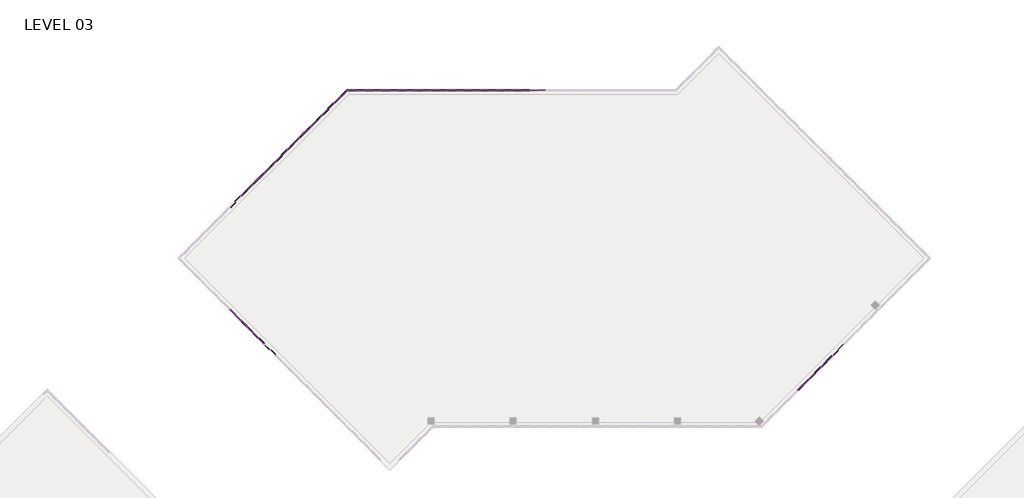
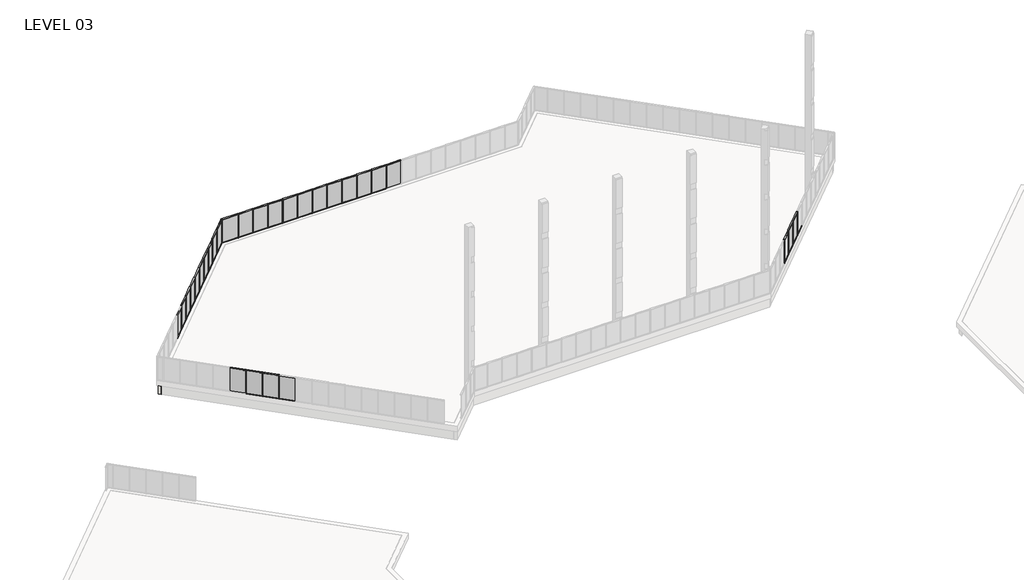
# One storey, part 14 of 18: 84 members, 28 plates, 2 walls.
"""IFC4 building model written with IfcOpenShell, lengths in millimetres."""

from ifc_helpers import new_model, si_unit, origin, place, context, project, spatial, faceted_brep, transform, mapped, element, save
from components import member_5247f267, member_e44af9ab, member_800970d4, member_1bd862b2, member_7ca0f77f, plate_67294edd, plate_bbcbcabf, plate_3fb62afd, plate_e0fd5134

model = new_model("IFC4")

# Units and contexts
model_context = context("Model", 3, world=origin())
ifc_project = project(units=[si_unit("LENGTHUNIT", "METRE", prefix="MILLI")], contexts=[model_context])

# Site, building, storey
site = spatial("IfcSite", under=ifc_project)
building = spatial("IfcBuilding", under=site)
storey = spatial("IfcBuildingStorey", under=building, Name="LEVEL 03", Elevation=8280.4)

# Members
placement = place(None, origin())
member_shape = member_5247f267(model_context)
element("IfcMember", 1, ObjectType="Rectangular Mullion : 2\" x 4.5\" rectangular", at=placement, inside=storey, context=model_context, shape_type="MappedRepresentation", body=[
    mapped(member_shape, transform((52409.397447, 92323.5436163, 8280.4), x_axis=(0.0, 0.0, -1.0), y_axis=(0.7071067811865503, -0.7071067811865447, 0.0), z_axis=(-0.7071067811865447, -0.7071067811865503, 0.0))),
])
element("IfcMember", 2, ObjectType="Rectangular Mullion : 2\" x 4.5\" rectangular", at=placement, inside=storey, context=model_context, shape_type="MappedRepresentation", body=[
    mapped(member_shape, transform((53487.0281815, 93401.1743508, 8280.4), x_axis=(0.0, 0.0, -1.0), y_axis=(0.7071067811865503, -0.7071067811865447, 0.0), z_axis=(-0.7071067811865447, -0.7071067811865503, 0.0))),
])
element("IfcMember", 3, ObjectType="Rectangular Mullion : 2\" x 4.5\" rectangular", at=placement, inside=storey, context=model_context, shape_type="MappedRepresentation", body=[
    mapped(member_shape, transform((55642.2748488, 95556.4210181, 8280.4), x_axis=(0.0, 0.0, -1.0), y_axis=(0.7071067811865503, -0.7071067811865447, 0.0), z_axis=(-0.7071067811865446, -0.7071067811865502, 0.0))),
])
element("IfcMember", 4, ObjectType="Rectangular Mullion : 2\" x 4.5\" rectangular", at=placement, inside=storey, context=model_context, shape_type="MappedRepresentation", body=[
    mapped(member_shape, transform((27514.55, 120127.9523049, 8280.4), x_axis=(0.0, 0.0, -1.0), y_axis=(0.0, 1.0, 0.0), z_axis=(1.0, 0.0, 0.0))),
])
element("IfcMember", 5, ObjectType="Rectangular Mullion : 2\" x 4.5\" rectangular", at=placement, inside=storey, context=model_context, shape_type="MappedRepresentation", body=[
    mapped(member_shape, transform((24466.55, 120127.9523049, 8280.4), x_axis=(0.0, 0.0, -1.0), y_axis=(0.0, 1.0, 0.0), z_axis=(1.0, 0.0, 0.0))),
])
element("IfcMember", 6, ObjectType="Rectangular Mullion : 2\" x 4.5\" rectangular", at=placement, inside=storey, context=model_context, shape_type="MappedRepresentation", body=[
    mapped(member_shape, transform((22942.55, 120127.9523049, 8280.4), x_axis=(0.0, 0.0, -1.0), y_axis=(0.0, 1.0, 0.0), z_axis=(1.0, 0.0, 0.0))),
])
element("IfcMember", 7, ObjectType="Rectangular Mullion : 2\" x 4.5\" rectangular", at=placement, inside=storey, context=model_context, shape_type="MappedRepresentation", body=[
    mapped(member_shape, transform((19894.55, 120127.9523049, 8280.4), x_axis=(0.0, 0.0, -1.0), y_axis=(0.0, 1.0, 0.0), z_axis=(1.0, 0.0, 0.0))),
])
element("IfcMember", 8, ObjectType="Rectangular Mullion : 2\" x 4.5\" rectangular", at=placement, inside=storey, context=model_context, shape_type="MappedRepresentation", body=[
    mapped(member_shape, transform((15322.55, 120127.9523049, 8280.4), x_axis=(0.0, 0.0, -1.0), y_axis=(0.0, 1.0, 0.0), z_axis=(1.0, 0.0, 0.0))),
])
element("IfcMember", 9, ObjectType="Rectangular Mullion : 2\" x 4.5\" rectangular", at=placement, inside=storey, context=model_context, shape_type="MappedRepresentation", body=[
    mapped(member_shape, transform((13798.55, 120127.9523049, 8280.4), x_axis=(0.0, 0.0, -1.0), y_axis=(0.0, 1.0, 0.0), z_axis=(1.0, 0.0, 0.0))),
])
element("IfcMember", 10, ObjectType="Rectangular Mullion : 2\" x 4.5\" rectangular", at=placement, inside=storey, context=model_context, shape_type="MappedRepresentation", body=[
    mapped(member_shape, transform((9397.6593581, 118915.3677986, 8280.4), x_axis=(0.0, 0.0, -1.0), y_axis=(-0.7071067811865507, 0.7071067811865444, 0.0), z_axis=(0.7071067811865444, 0.7071067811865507, 0.0))),
])
element("IfcMember", 11, ObjectType="Rectangular Mullion : 2\" x 4.5\" rectangular", at=placement, inside=storey, context=model_context, shape_type="MappedRepresentation", body=[
    mapped(member_shape, transform((8320.0286235, 117837.7370641, 8280.4), x_axis=(0.0, 0.0, -1.0), y_axis=(-0.7071067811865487, 0.7071067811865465, 0.0), z_axis=(0.7071067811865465, 0.7071067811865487, 0.0))),
])
element("IfcMember", 12, ObjectType="Rectangular Mullion : 2\" x 4.5\" rectangular", at=placement, inside=storey, context=model_context, shape_type="MappedRepresentation", body=[
    mapped(member_shape, transform((7242.397889, 116760.1063296, 8280.4), x_axis=(0.0, 0.0, -1.0), y_axis=(-0.7071067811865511, 0.707106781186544, 0.0), z_axis=(0.707106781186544, 0.7071067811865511, 0.0))),
])
element("IfcMember", 13, ObjectType="Rectangular Mullion : 2\" x 4.5\" rectangular", at=placement, inside=storey, context=model_context, shape_type="MappedRepresentation", body=[
    mapped(member_shape, transform((6164.7671545, 115682.475595, 8280.4), x_axis=(0.0, 0.0, -1.0), y_axis=(-0.7071067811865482, 0.7071067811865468, 0.0), z_axis=(0.7071067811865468, 0.7071067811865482, 0.0))),
])
element("IfcMember", 14, ObjectType="Rectangular Mullion : 2\" x 4.5\" rectangular", at=placement, inside=storey, context=model_context, shape_type="MappedRepresentation", body=[
    mapped(member_shape, transform((4009.5056854, 113527.214126, 8280.4), x_axis=(0.0, 0.0, -1.0), y_axis=(-0.7071067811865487, 0.7071067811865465, 0.0), z_axis=(0.7071067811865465, 0.7071067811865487, 0.0))),
])
element("IfcMember", 15, ObjectType="Rectangular Mullion : 2\" x 4.5\" rectangular", at=placement, inside=storey, context=model_context, shape_type="MappedRepresentation", body=[
    mapped(member_shape, transform((2931.8749509, 112449.5833914, 8280.4), x_axis=(0.0, 0.0, -1.0), y_axis=(-0.7071067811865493, 0.7071067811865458, 0.0), z_axis=(0.7071067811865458, 0.7071067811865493, 0.0))),
])
element("IfcMember", 16, ObjectType="Rectangular Mullion : 2\" x 4.5\" rectangular", at=placement, inside=storey, context=model_context, shape_type="MappedRepresentation", body=[
    mapped(member_shape, transform((1854.2442164, 111371.9526569, 8280.4), x_axis=(0.0, 0.0, -1.0), y_axis=(-0.7071067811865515, 0.7071067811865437, 0.0), z_axis=(0.7071067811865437, 0.7071067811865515, 0.0))),
])
element("IfcMember", 17, ObjectType="Rectangular Mullion : 2\" x 4.5\" rectangular", at=placement, inside=storey, context=model_context, shape_type="MappedRepresentation", body=[
    mapped(member_shape, transform((812.713179, 98753.3329903, 8280.4), x_axis=(0.0, 0.0, -1.0), y_axis=(-0.7071067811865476, -0.7071067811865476, 0.0), z_axis=(-0.7071067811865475, 0.7071067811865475, 0.0))),
])
element("IfcMember", 18, ObjectType="Rectangular Mullion : 2\" x 4.5\" rectangular", at=placement, inside=storey, context=model_context, shape_type="MappedRepresentation", body=[
    mapped(member_shape, transform((1890.3439135, 97675.7022558, 8280.4), x_axis=(0.0, 0.0, -1.0), y_axis=(-0.7071067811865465, -0.7071067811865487, 0.0), z_axis=(-0.7071067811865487, 0.7071067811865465, 0.0))),
])
element("IfcMember", 19, ObjectType="Rectangular Mullion : 2\" x 4.5\" rectangular", at=placement, inside=storey, context=model_context, shape_type="MappedRepresentation", body=[
    mapped(member_shape, transform((2967.974648, 96598.0715213, 8280.4), x_axis=(0.0, 0.0, -1.0), y_axis=(-0.7071067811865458, -0.7071067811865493, 0.0), z_axis=(-0.7071067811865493, 0.7071067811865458, 0.0))),
])
element("IfcMember", 20, ObjectType="Rectangular Mullion : 2\" x 4.5\" rectangular", at=placement, inside=storey, context=model_context, shape_type="MappedRepresentation", body=[
    mapped(member_shape, transform((21418.55, 120127.9523049, 8280.4), x_axis=(0.0, 0.0, -1.0), y_axis=(0.0, 1.0, 0.0), z_axis=(1.0, 0.0, 0.0))),
])
element("IfcMember", 21, ObjectType="Rectangular Mullion : 2\" x 4.5\" rectangular", at=placement, inside=storey, context=model_context, shape_type="MappedRepresentation", body=[
    mapped(member_shape, transform((25990.55, 120127.9523049, 8280.4), x_axis=(0.0, 0.0, -1.0), y_axis=(0.0, 1.0, 0.0), z_axis=(1.0, 0.0, 0.0))),
])
element("IfcMember", 22, ObjectType="Rectangular Mullion : 2\" x 4.5\" rectangular", at=placement, inside=storey, context=model_context, shape_type="MappedRepresentation", body=[
    mapped(member_shape, transform((18370.55, 120127.9523049, 8280.4), x_axis=(0.0, 0.0, -1.0), y_axis=(0.0, 1.0, 0.0), z_axis=(1.0, 0.0, 0.0))),
])
element("IfcMember", 23, ObjectType="Rectangular Mullion : 2\" x 4.5\" rectangular", at=placement, inside=storey, context=model_context, shape_type="MappedRepresentation", body=[
    mapped(member_shape, transform((16846.55, 120127.9523049, 8280.4), x_axis=(0.0, 0.0, -1.0), y_axis=(0.0, 1.0, 0.0), z_axis=(1.0, 0.0, 0.0))),
])
element("IfcMember", 24, ObjectType="Rectangular Mullion : 2\" x 4.5\" rectangular", at=placement, inside=storey, context=model_context, shape_type="MappedRepresentation", body=[
    mapped(member_shape, transform((5087.1364199, 114604.8448605, 8280.4), x_axis=(0.0, 0.0, -1.0), y_axis=(-0.7071067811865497, 0.7071067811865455, 0.0), z_axis=(0.7071067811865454, 0.7071067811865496, 0.0))),
])
element("IfcMember", 25, ObjectType="Rectangular Mullion : 2\" x 4.5\" rectangular", at=placement, inside=storey, context=model_context, shape_type="MappedRepresentation", body=[
    mapped(member_shape, transform((776.6134818, 110294.3219224, 8280.4), x_axis=(0.0, 0.0, -1.0), y_axis=(-0.7071067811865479, 0.7071067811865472, 0.0), z_axis=(0.7071067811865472, 0.7071067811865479, 0.0))),
])
element("IfcMember", 26, ObjectType="Rectangular Mullion : 2\" x 4.5\" rectangular", at=placement, inside=storey, context=model_context, shape_type="MappedRepresentation", body=[
    mapped(member_shape, transform((54564.6515152, 94478.7976845, 8280.4), x_axis=(0.0, 0.0, -1.0), y_axis=(0.7071067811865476, -0.7071067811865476, 0.0), z_axis=(-0.7071067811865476, -0.7071067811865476, 0.0))),
])
element("IfcMember", 27, ObjectType="Rectangular Mullion : 2\" x 4.5\" rectangular", at=placement, inside=storey, context=model_context, shape_type="MappedRepresentation", body=[
    mapped(member_shape, transform((53451.107157, 93365.2533263, 10871.2), x_axis=(0.0, 0.0, 1.0), y_axis=(0.7071067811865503, -0.7071067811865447, 0.0), z_axis=(0.7071067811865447, 0.7071067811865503, 0.0))),
])
element("IfcMember", 28, ObjectType="Rectangular Mullion : 2\" x 4.5\" rectangular", at=placement, inside=storey, context=model_context, shape_type="MappedRepresentation", body=[
    mapped(member_shape, transform((55606.3538244, 95520.4999937, 10871.2), x_axis=(0.0, 0.0, 1.0), y_axis=(0.7071067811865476, -0.7071067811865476, 0.0), z_axis=(0.7071067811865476, 0.7071067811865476, 0.0))),
])
element("IfcMember", 29, ObjectType="Rectangular Mullion : 2\" x 4.5\" rectangular", at=placement, inside=storey, context=model_context, shape_type="MappedRepresentation", body=[
    mapped(member_shape, transform((27565.35, 120127.9523049, 10871.2), x_axis=(0.0, 0.0, 1.0), y_axis=(0.0, 1.0, 0.0), z_axis=(-1.0, 0.0, 0.0))),
])
element("IfcMember", 30, ObjectType="Rectangular Mullion : 2\" x 4.5\" rectangular", at=placement, inside=storey, context=model_context, shape_type="MappedRepresentation", body=[
    mapped(member_shape, transform((24517.35, 120127.9523049, 10871.2), x_axis=(0.0, 0.0, 1.0), y_axis=(0.0, 1.0, 0.0), z_axis=(-1.0, 0.0, 0.0))),
])
element("IfcMember", 31, ObjectType="Rectangular Mullion : 2\" x 4.5\" rectangular", at=placement, inside=storey, context=model_context, shape_type="MappedRepresentation", body=[
    mapped(member_shape, transform((22993.35, 120127.9523049, 10871.2), x_axis=(0.0, 0.0, 1.0), y_axis=(0.0, 1.0, 0.0), z_axis=(-1.0, 0.0, 0.0))),
])
element("IfcMember", 32, ObjectType="Rectangular Mullion : 2\" x 4.5\" rectangular", at=placement, inside=storey, context=model_context, shape_type="MappedRepresentation", body=[
    mapped(member_shape, transform((19945.35, 120127.9523049, 10871.2), x_axis=(0.0, 0.0, 1.0), y_axis=(0.0, 1.0, 0.0), z_axis=(-1.0, 0.0, 0.0))),
])
element("IfcMember", 33, ObjectType="Rectangular Mullion : 2\" x 4.5\" rectangular", at=placement, inside=storey, context=model_context, shape_type="MappedRepresentation", body=[
    mapped(member_shape, transform((15373.35, 120127.9523049, 10871.2), x_axis=(0.0, 0.0, 1.0), y_axis=(0.0, 1.0, 0.0), z_axis=(-1.0, 0.0, 0.0))),
])
element("IfcMember", 34, ObjectType="Rectangular Mullion : 2\" x 4.5\" rectangular", at=placement, inside=storey, context=model_context, shape_type="MappedRepresentation", body=[
    mapped(member_shape, transform((13849.35, 120127.9523049, 10871.2), x_axis=(0.0, 0.0, 1.0), y_axis=(0.0, 1.0, 0.0), z_axis=(-1.0, 0.0, 0.0))),
])
element("IfcMember", 35, ObjectType="Rectangular Mullion : 2\" x 4.5\" rectangular", at=placement, inside=storey, context=model_context, shape_type="MappedRepresentation", body=[
    mapped(member_shape, transform((8355.949648, 117873.6580886, 10871.2), x_axis=(0.0, 0.0, 1.0), y_axis=(-0.7071067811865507, 0.7071067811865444, 0.0), z_axis=(-0.7071067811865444, -0.7071067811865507, 0.0))),
])
element("IfcMember", 36, ObjectType="Rectangular Mullion : 2\" x 4.5\" rectangular", at=placement, inside=storey, context=model_context, shape_type="MappedRepresentation", body=[
    mapped(member_shape, transform((7278.3189135, 116796.027354, 10871.2), x_axis=(0.0, 0.0, 1.0), y_axis=(-0.7071067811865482, 0.7071067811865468, 0.0), z_axis=(-0.7071067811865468, -0.7071067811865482, 0.0))),
])
element("IfcMember", 37, ObjectType="Rectangular Mullion : 2\" x 4.5\" rectangular", at=placement, inside=storey, context=model_context, shape_type="MappedRepresentation", body=[
    mapped(member_shape, transform((6200.688179, 115718.3966195, 10871.2), x_axis=(0.0, 0.0, 1.0), y_axis=(-0.7071067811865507, 0.7071067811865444, 0.0), z_axis=(-0.7071067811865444, -0.7071067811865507, 0.0))),
])
element("IfcMember", 38, ObjectType="Rectangular Mullion : 2\" x 4.5\" rectangular", at=placement, inside=storey, context=model_context, shape_type="MappedRepresentation", body=[
    mapped(member_shape, transform((4045.4267099, 113563.1351505, 10871.2), x_axis=(0.0, 0.0, 1.0), y_axis=(-0.7071067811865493, 0.7071067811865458, 0.0), z_axis=(-0.7071067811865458, -0.7071067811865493, 0.0))),
])
element("IfcMember", 39, ObjectType="Rectangular Mullion : 2\" x 4.5\" rectangular", at=placement, inside=storey, context=model_context, shape_type="MappedRepresentation", body=[
    mapped(member_shape, transform((2967.7959754, 112485.5044159, 10871.2), x_axis=(0.0, 0.0, 1.0), y_axis=(-0.7071067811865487, 0.7071067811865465, 0.0), z_axis=(-0.7071067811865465, -0.7071067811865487, 0.0))),
])
element("IfcMember", 40, ObjectType="Rectangular Mullion : 2\" x 4.5\" rectangular", at=placement, inside=storey, context=model_context, shape_type="MappedRepresentation", body=[
    mapped(member_shape, transform((1890.1652408, 111407.8736814, 10871.2), x_axis=(0.0, 0.0, 1.0), y_axis=(-0.7071067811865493, 0.7071067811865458, 0.0), z_axis=(-0.7071067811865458, -0.7071067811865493, 0.0))),
])
element("IfcMember", 41, ObjectType="Rectangular Mullion : 2\" x 4.5\" rectangular", at=placement, inside=storey, context=model_context, shape_type="MappedRepresentation", body=[
    mapped(member_shape, transform((776.7921545, 98789.2540148, 10871.2), x_axis=(0.0, 0.0, 1.0), y_axis=(-0.7071067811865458, -0.7071067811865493, 0.0), z_axis=(0.7071067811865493, -0.7071067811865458, 0.0))),
])
element("IfcMember", 42, ObjectType="Rectangular Mullion : 2\" x 4.5\" rectangular", at=placement, inside=storey, context=model_context, shape_type="MappedRepresentation", body=[
    mapped(member_shape, transform((1854.422889, 97711.6232803, 10871.2), x_axis=(0.0, 0.0, 1.0), y_axis=(-0.7071067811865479, -0.7071067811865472, 0.0), z_axis=(0.7071067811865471, -0.7071067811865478, 0.0))),
])
element("IfcMember", 43, ObjectType="Rectangular Mullion : 2\" x 4.5\" rectangular", at=placement, inside=storey, context=model_context, shape_type="MappedRepresentation", body=[
    mapped(member_shape, transform((2932.0536235, 96633.9925458, 10871.2), x_axis=(0.0, 0.0, 1.0), y_axis=(-0.7071067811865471, -0.7071067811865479, 0.0), z_axis=(0.7071067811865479, -0.7071067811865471, 0.0))),
])
element("IfcMember", 44, ObjectType="Rectangular Mullion : 2\" x 4.5\" rectangular", at=placement, inside=storey, context=model_context, shape_type="MappedRepresentation", body=[
    mapped(member_shape, transform((21469.35, 120127.9523049, 10871.2), x_axis=(0.0, 0.0, 1.0), y_axis=(0.0, 1.0, 0.0), z_axis=(-1.0, 0.0, 0.0))),
])
element("IfcMember", 45, ObjectType="Rectangular Mullion : 2\" x 4.5\" rectangular", at=placement, inside=storey, context=model_context, shape_type="MappedRepresentation", body=[
    mapped(member_shape, transform((26041.35, 120127.9523049, 10871.2), x_axis=(0.0, 0.0, 1.0), y_axis=(0.0, 1.0, 0.0), z_axis=(-1.0, 0.0, 0.0))),
])
element("IfcMember", 46, ObjectType="Rectangular Mullion : 2\" x 4.5\" rectangular", at=placement, inside=storey, context=model_context, shape_type="MappedRepresentation", body=[
    mapped(member_shape, transform((18421.35, 120127.9523049, 10871.2), x_axis=(0.0, 0.0, 1.0), y_axis=(0.0, 1.0, 0.0), z_axis=(-1.0, 0.0, 0.0))),
])
element("IfcMember", 47, ObjectType="Rectangular Mullion : 2\" x 4.5\" rectangular", at=placement, inside=storey, context=model_context, shape_type="MappedRepresentation", body=[
    mapped(member_shape, transform((16897.35, 120127.9523049, 10871.2), x_axis=(0.0, 0.0, 1.0), y_axis=(0.0, 1.0, 0.0), z_axis=(-1.0, 0.0, 0.0))),
])
element("IfcMember", 48, ObjectType="Rectangular Mullion : 2\" x 4.5\" rectangular", at=placement, inside=storey, context=model_context, shape_type="MappedRepresentation", body=[
    mapped(member_shape, transform((12325.35, 120127.9523049, 10871.2), x_axis=(0.0, 0.0, 1.0), y_axis=(0.0, 1.0, 0.0), z_axis=(-1.0, 0.0, 0.0))),
])
element("IfcMember", 49, ObjectType="Rectangular Mullion : 2\" x 4.5\" rectangular", at=placement, inside=storey, context=model_context, shape_type="MappedRepresentation", body=[
    mapped(member_shape, transform((5123.0574444, 114640.765885, 10871.2), x_axis=(0.0, 0.0, 1.0), y_axis=(-0.707106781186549, 0.7071067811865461, 0.0), z_axis=(-0.707106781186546, -0.7071067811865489, 0.0))),
])
element("IfcMember", 50, ObjectType="Rectangular Mullion : 2\" x 4.5\" rectangular", at=placement, inside=storey, context=model_context, shape_type="MappedRepresentation", body=[
    mapped(member_shape, transform((812.5345063, 110330.2429469, 10871.2), x_axis=(0.0, 0.0, 1.0), y_axis=(-0.7071067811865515, 0.7071067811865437, 0.0), z_axis=(-0.7071067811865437, -0.7071067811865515, 0.0))),
])
element("IfcMember", 51, ObjectType="Rectangular Mullion : 2\" x 4.5\" rectangular", at=placement, inside=storey, context=model_context, shape_type="MappedRepresentation", body=[
    mapped(member_shape, transform((54528.7304907, 94442.87666, 10871.2), x_axis=(0.0, 0.0, 1.0), y_axis=(0.7071067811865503, -0.7071067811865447, 0.0), z_axis=(0.7071067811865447, 0.7071067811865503, 0.0))),
])
member_2_shape = member_e44af9ab(model_context)
element("IfcMember", 52, ObjectType="Rectangular Mullion : 2\" x 4.5\" rectangular", at=placement, inside=storey, context=model_context, shape_type="MappedRepresentation", body=[
    mapped(member_2_shape, transform((52391.4369347, 92305.583104, 8280.4), x_axis=(0.7071067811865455, 0.7071067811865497, 0.0), y_axis=(0.7071067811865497, -0.7071067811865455, 0.0), z_axis=(0.0, 0.0, -1.0))),
])
element("IfcMember", 53, ObjectType="Rectangular Mullion : 2\" x 4.5\" rectangular", at=placement, inside=storey, context=model_context, shape_type="MappedRepresentation", body=[
    mapped(member_2_shape, transform((53469.0676693, 93383.2138386, 8280.4), x_axis=(0.7071067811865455, 0.7071067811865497, 0.0), y_axis=(0.7071067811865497, -0.7071067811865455, 0.0), z_axis=(0.0, 0.0, -1.0))),
])
element("IfcMember", 54, ObjectType="Rectangular Mullion : 2\" x 4.5\" rectangular", at=placement, inside=storey, context=model_context, shape_type="MappedRepresentation", body=[
    mapped(member_2_shape, transform((55624.3143366, 95538.4605059, 8280.4), x_axis=(0.7071067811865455, 0.7071067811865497, 0.0), y_axis=(0.7071067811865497, -0.7071067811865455, 0.0), z_axis=(0.0, 0.0, -1.0))),
])
element("IfcMember", 55, ObjectType="Rectangular Mullion : 2\" x 4.5\" rectangular", at=placement, inside=storey, context=model_context, shape_type="MappedRepresentation", body=[
    mapped(member_2_shape, transform((27539.95, 120127.9523049, 8280.4), x_axis=(-1.0, 0.0, 0.0), y_axis=(0.0, 1.0, 0.0), z_axis=(0.0, 0.0, -1.0))),
])
element("IfcMember", 56, ObjectType="Rectangular Mullion : 2\" x 4.5\" rectangular", at=placement, inside=storey, context=model_context, shape_type="MappedRepresentation", body=[
    mapped(member_2_shape, transform((24491.95, 120127.9523049, 8280.4), x_axis=(-1.0, 0.0, 0.0), y_axis=(0.0, 1.0, 0.0), z_axis=(0.0, 0.0, -1.0))),
])
element("IfcMember", 57, ObjectType="Rectangular Mullion : 2\" x 4.5\" rectangular", at=placement, inside=storey, context=model_context, shape_type="MappedRepresentation", body=[
    mapped(member_2_shape, transform((22967.95, 120127.9523049, 8280.4), x_axis=(-1.0, 0.0, 0.0), y_axis=(0.0, 1.0, 0.0), z_axis=(0.0, 0.0, -1.0))),
])
element("IfcMember", 58, ObjectType="Rectangular Mullion : 2\" x 4.5\" rectangular", at=placement, inside=storey, context=model_context, shape_type="MappedRepresentation", body=[
    mapped(member_2_shape, transform((19919.95, 120127.9523049, 8280.4), x_axis=(-1.0, 0.0, 0.0), y_axis=(0.0, 1.0, 0.0), z_axis=(0.0, 0.0, -1.0))),
])
element("IfcMember", 59, ObjectType="Rectangular Mullion : 2\" x 4.5\" rectangular", at=placement, inside=storey, context=model_context, shape_type="MappedRepresentation", body=[
    mapped(member_2_shape, transform((15347.95, 120127.9523049, 8280.4), x_axis=(-1.0, 0.0, 0.0), y_axis=(0.0, 1.0, 0.0), z_axis=(0.0, 0.0, -1.0))),
])
element("IfcMember", 60, ObjectType="Rectangular Mullion : 2\" x 4.5\" rectangular", at=placement, inside=storey, context=model_context, shape_type="MappedRepresentation", body=[
    mapped(member_2_shape, transform((13823.95, 120127.9523049, 8280.4), x_axis=(-1.0, 0.0, 0.0), y_axis=(0.0, 1.0, 0.0), z_axis=(0.0, 0.0, -1.0))),
])
element("IfcMember", 61, ObjectType="Rectangular Mullion : 2\" x 4.5\" rectangular", at=placement, inside=storey, context=model_context, shape_type="MappedRepresentation", body=[
    mapped(member_2_shape, transform((9415.6198703, 118933.3283108, 8280.4), x_axis=(-0.7071067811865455, -0.7071067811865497, 0.0), y_axis=(-0.7071067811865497, 0.7071067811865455, 0.0), z_axis=(0.0, 0.0, -1.0))),
])
element("IfcMember", 62, ObjectType="Rectangular Mullion : 2\" x 4.5\" rectangular", at=placement, inside=storey, context=model_context, shape_type="MappedRepresentation", body=[
    mapped(member_2_shape, transform((8337.9891358, 117855.6975763, 8280.4), x_axis=(-0.7071067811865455, -0.7071067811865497, 0.0), y_axis=(-0.7071067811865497, 0.7071067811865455, 0.0), z_axis=(0.0, 0.0, -1.0))),
])
element("IfcMember", 63, ObjectType="Rectangular Mullion : 2\" x 4.5\" rectangular", at=placement, inside=storey, context=model_context, shape_type="MappedRepresentation", body=[
    mapped(member_2_shape, transform((7260.3584012, 116778.0668418, 8280.4), x_axis=(-0.7071067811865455, -0.7071067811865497, 0.0), y_axis=(-0.7071067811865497, 0.7071067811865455, 0.0), z_axis=(0.0, 0.0, -1.0))),
])
element("IfcMember", 64, ObjectType="Rectangular Mullion : 2\" x 4.5\" rectangular", at=placement, inside=storey, context=model_context, shape_type="MappedRepresentation", body=[
    mapped(member_2_shape, transform((6182.7276667, 115700.4361073, 8280.4), x_axis=(-0.7071067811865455, -0.7071067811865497, 0.0), y_axis=(-0.7071067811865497, 0.7071067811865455, 0.0), z_axis=(0.0, 0.0, -1.0))),
])
element("IfcMember", 65, ObjectType="Rectangular Mullion : 2\" x 4.5\" rectangular", at=placement, inside=storey, context=model_context, shape_type="MappedRepresentation", body=[
    mapped(member_2_shape, transform((4027.4661977, 113545.1746382, 8280.4), x_axis=(-0.7071067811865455, -0.7071067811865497, 0.0), y_axis=(-0.7071067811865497, 0.7071067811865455, 0.0), z_axis=(0.0, 0.0, -1.0))),
])
element("IfcMember", 66, ObjectType="Rectangular Mullion : 2\" x 4.5\" rectangular", at=placement, inside=storey, context=model_context, shape_type="MappedRepresentation", body=[
    mapped(member_2_shape, transform((2949.8354631, 112467.5439037, 8280.4), x_axis=(-0.7071067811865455, -0.7071067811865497, 0.0), y_axis=(-0.7071067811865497, 0.7071067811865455, 0.0), z_axis=(0.0, 0.0, -1.0))),
])
element("IfcMember", 67, ObjectType="Rectangular Mullion : 2\" x 4.5\" rectangular", at=placement, inside=storey, context=model_context, shape_type="MappedRepresentation", body=[
    mapped(member_2_shape, transform((1872.2047286, 111389.9131692, 8280.4), x_axis=(-0.7071067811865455, -0.7071067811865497, 0.0), y_axis=(-0.7071067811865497, 0.7071067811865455, 0.0), z_axis=(0.0, 0.0, -1.0))),
])
element("IfcMember", 68, ObjectType="Rectangular Mullion : 2\" x 4.5\" rectangular", at=placement, inside=storey, context=model_context, shape_type="MappedRepresentation", body=[
    mapped(member_2_shape, transform((794.7526667, 98771.2935026, 8280.4), x_axis=(0.7071067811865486, -0.7071067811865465, 0.0), y_axis=(-0.7071067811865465, -0.7071067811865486, 0.0), z_axis=(0.0, 0.0, -1.0))),
])
element("IfcMember", 69, ObjectType="Rectangular Mullion : 2\" x 4.5\" rectangular", at=placement, inside=storey, context=model_context, shape_type="MappedRepresentation", body=[
    mapped(member_2_shape, transform((1872.3834012, 97693.6627681, 8280.4), x_axis=(0.7071067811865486, -0.7071067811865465, 0.0), y_axis=(-0.7071067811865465, -0.7071067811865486, 0.0), z_axis=(0.0, 0.0, -1.0))),
])
element("IfcMember", 70, ObjectType="Rectangular Mullion : 2\" x 4.5\" rectangular", at=placement, inside=storey, context=model_context, shape_type="MappedRepresentation", body=[
    mapped(member_2_shape, transform((2950.0141358, 96616.0320335, 8280.4), x_axis=(0.7071067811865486, -0.7071067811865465, 0.0), y_axis=(-0.7071067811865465, -0.7071067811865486, 0.0), z_axis=(0.0, 0.0, -1.0))),
])
element("IfcMember", 71, ObjectType="Rectangular Mullion : 2\" x 4.5\" rectangular", at=placement, inside=storey, context=model_context, shape_type="MappedRepresentation", body=[
    mapped(member_2_shape, transform((21443.95, 120127.9523049, 8280.4), x_axis=(-1.0, 0.0, 0.0), y_axis=(0.0, 1.0, 0.0), z_axis=(0.0, 0.0, -1.0))),
])
element("IfcMember", 72, ObjectType="Rectangular Mullion : 2\" x 4.5\" rectangular", at=placement, inside=storey, context=model_context, shape_type="MappedRepresentation", body=[
    mapped(member_2_shape, transform((26015.95, 120127.9523049, 8280.4), x_axis=(-1.0, 0.0, 0.0), y_axis=(0.0, 1.0, 0.0), z_axis=(0.0, 0.0, -1.0))),
])
element("IfcMember", 73, ObjectType="Rectangular Mullion : 2\" x 4.5\" rectangular", at=placement, inside=storey, context=model_context, shape_type="MappedRepresentation", body=[
    mapped(member_2_shape, transform((18395.95, 120127.9523049, 8280.4), x_axis=(-1.0, 0.0, 0.0), y_axis=(0.0, 1.0, 0.0), z_axis=(0.0, 0.0, -1.0))),
])
element("IfcMember", 74, ObjectType="Rectangular Mullion : 2\" x 4.5\" rectangular", at=placement, inside=storey, context=model_context, shape_type="MappedRepresentation", body=[
    mapped(member_2_shape, transform((16871.95, 120127.9523049, 8280.4), x_axis=(-1.0, 0.0, 0.0), y_axis=(0.0, 1.0, 0.0), z_axis=(0.0, 0.0, -1.0))),
])
element("IfcMember", 75, ObjectType="Rectangular Mullion : 2\" x 4.5\" rectangular", at=placement, inside=storey, context=model_context, shape_type="MappedRepresentation", body=[
    mapped(member_2_shape, transform((12299.95, 120127.9523049, 8280.4), x_axis=(-1.0, 0.0, 0.0), y_axis=(0.0, 1.0, 0.0), z_axis=(0.0, 0.0, -1.0))),
])
element("IfcMember", 76, ObjectType="Rectangular Mullion : 2\" x 4.5\" rectangular", at=placement, inside=storey, context=model_context, shape_type="MappedRepresentation", body=[
    mapped(member_2_shape, transform((5105.0969322, 114622.8053727, 8280.4), x_axis=(-0.7071067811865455, -0.7071067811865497, 0.0), y_axis=(-0.7071067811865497, 0.7071067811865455, 0.0), z_axis=(0.0, 0.0, -1.0))),
])
element("IfcMember", 77, ObjectType="Rectangular Mullion : 2\" x 4.5\" rectangular", at=placement, inside=storey, context=model_context, shape_type="MappedRepresentation", body=[
    mapped(member_2_shape, transform((794.5739941, 110312.2824346, 8280.4), x_axis=(-0.7071067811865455, -0.7071067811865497, 0.0), y_axis=(-0.7071067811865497, 0.7071067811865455, 0.0), z_axis=(0.0, 0.0, -1.0))),
])
element("IfcMember", 78, ObjectType="Rectangular Mullion : 2\" x 4.5\" rectangular", at=placement, inside=storey, context=model_context, shape_type="MappedRepresentation", body=[
    mapped(member_2_shape, transform((54546.6910029, 94460.8371722, 8280.4), x_axis=(0.7071067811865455, 0.7071067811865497, 0.0), y_axis=(0.7071067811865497, -0.7071067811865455, 0.0), z_axis=(0.0, 0.0, -1.0))),
])
member_3_shape = member_800970d4(model_context)
element("IfcMember", 79, ObjectType="Rectangular Mullion : 2\" x 4.5\" rectangular", at=placement, inside=storey, context=model_context, shape_type="MappedRepresentation", body=[
    mapped(member_3_shape, transform((10610.2438644, 120127.9523049, 8280.4), x_axis=(-1.0, 0.0, 0.0), y_axis=(0.0, 1.0, 0.0), z_axis=(0.0, 0.0, -1.0))),
])
element("IfcMember", 80, ObjectType="Rectangular Mullion : 2\" x 4.5\" rectangular", at=placement, inside=storey, context=model_context, shape_type="MappedRepresentation", body=[
    mapped(member_3_shape, transform((10610.2438644, 120127.9523049, 10871.2), x_axis=(0.7071067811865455, 0.7071067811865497, 0.0), y_axis=(-0.7071067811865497, 0.7071067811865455, 0.0), z_axis=(0.0, 0.0, 1.0))),
])
member_4_shape = member_1bd862b2(model_context)
element("IfcMember", 81, ObjectType="Rectangular Mullion : 2\" x 4.5\" rectangular", at=placement, inside=storey, context=model_context, shape_type="MappedRepresentation", body=[
    mapped(member_4_shape, transform((10661.0438644, 120127.9523049, 10871.2), x_axis=(0.0, 0.0, 1.0), y_axis=(0.0, 1.0, 0.0), z_axis=(-1.0, 0.0, 0.0))),
])
element("IfcMember", 82, ObjectType="Rectangular Mullion : 2\" x 4.5\" rectangular", at=placement, inside=storey, context=model_context, shape_type="MappedRepresentation", body=[
    mapped(member_4_shape, transform((12274.55, 120127.9523049, 8280.4), x_axis=(0.0, 0.0, -1.0), y_axis=(0.0, 1.0, 0.0), z_axis=(1.0, 0.0, 0.0))),
])
member_5_shape = member_7ca0f77f(model_context)
element("IfcMember", 83, ObjectType="Rectangular Mullion : 2\" x 4.5\" rectangular", at=placement, inside=storey, context=model_context, shape_type="MappedRepresentation", body=[
    mapped(member_5_shape, transform((9433.5803825, 118951.2888231, 10871.2), x_axis=(0.0, 0.0, 1.0), y_axis=(-0.7071067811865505, 0.7071067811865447, 0.0), z_axis=(-0.7071067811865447, -0.7071067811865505, 0.0))),
])
element("IfcMember", 84, ObjectType="Rectangular Mullion : 2\" x 4.5\" rectangular", at=placement, inside=storey, context=model_context, shape_type="MappedRepresentation", body=[
    mapped(member_5_shape, transform((10574.3228399, 120092.0312804, 8280.4), x_axis=(0.0, 0.0, -1.0), y_axis=(-0.7071067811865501, 0.7071067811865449, 0.0), z_axis=(0.7071067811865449, 0.7071067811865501, 0.0))),
])

# Plates
plate_shape = plate_67294edd(model_context)
element("IfcPlate", 85, ObjectType="System Panel : 1/4\" Glass", at=placement, inside=storey, context=model_context, shape_type="MappedRepresentation", body=[
    mapped(plate_shape, transform((28301.95, 120127.9523049, 8331.2), x_axis=(-1.0, 0.0, 0.0), y_axis=(0.0, -1.0, 0.0), z_axis=(0.0, 0.0, 1.0))),
])
element("IfcPlate", 86, ObjectType="System Panel : 1/4\" Glass", at=placement, inside=storey, context=model_context, shape_type="MappedRepresentation", body=[
    mapped(plate_shape, transform((26777.95, 120127.9523049, 8331.2), x_axis=(-1.0, 0.0, 0.0), y_axis=(0.0, -1.0, 0.0), z_axis=(0.0, 0.0, 1.0))),
])
element("IfcPlate", 87, ObjectType="System Panel : 1/4\" Glass", at=placement, inside=storey, context=model_context, shape_type="MappedRepresentation", body=[
    mapped(plate_shape, transform((23729.95, 120127.9523049, 8331.2), x_axis=(-1.0, 0.0, 0.0), y_axis=(0.0, -1.0, 0.0), z_axis=(0.0, 0.0, 1.0))),
])
element("IfcPlate", 88, ObjectType="System Panel : 1/4\" Glass", at=placement, inside=storey, context=model_context, shape_type="MappedRepresentation", body=[
    mapped(plate_shape, transform((22205.95, 120127.9523049, 8331.2), x_axis=(-1.0, 0.0, 0.0), y_axis=(0.0, -1.0, 0.0), z_axis=(0.0, 0.0, 1.0))),
])
element("IfcPlate", 89, ObjectType="System Panel : 1/4\" Glass", at=placement, inside=storey, context=model_context, shape_type="MappedRepresentation", body=[
    mapped(plate_shape, transform((19157.95, 120127.9523049, 8331.2), x_axis=(-1.0, 0.0, 0.0), y_axis=(0.0, -1.0, 0.0), z_axis=(0.0, 0.0, 1.0))),
])
element("IfcPlate", 90, ObjectType="System Panel : 1/4\" Glass", at=placement, inside=storey, context=model_context, shape_type="MappedRepresentation", body=[
    mapped(plate_shape, transform((14585.95, 120127.9523049, 8331.2), x_axis=(-1.0, 0.0, 0.0), y_axis=(0.0, -1.0, 0.0), z_axis=(0.0, 0.0, 1.0))),
])
element("IfcPlate", 91, ObjectType="System Panel : 1/4\" Glass", at=placement, inside=storey, context=model_context, shape_type="MappedRepresentation", body=[
    mapped(plate_shape, transform((13061.95, 120127.9523049, 8331.2), x_axis=(-1.0, 0.0, 0.0), y_axis=(0.0, -1.0, 0.0), z_axis=(0.0, 0.0, 1.0))),
])
element("IfcPlate", 92, ObjectType="System Panel : 1/4\" Glass", at=placement, inside=storey, context=model_context, shape_type="MappedRepresentation", body=[
    mapped(plate_shape, transform((8876.804503, 118394.5129436, 8331.2), x_axis=(-0.7071067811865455, -0.7071067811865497, 0.0), y_axis=(0.7071067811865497, -0.7071067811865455, 0.0), z_axis=(0.0, 0.0, 1.0))),
])
element("IfcPlate", 93, ObjectType="System Panel : 1/4\" Glass", at=placement, inside=storey, context=model_context, shape_type="MappedRepresentation", body=[
    mapped(plate_shape, transform((7799.1737685, 117316.8822091, 8331.2), x_axis=(-0.7071067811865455, -0.7071067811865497, 0.0), y_axis=(0.7071067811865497, -0.7071067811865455, 0.0), z_axis=(0.0, 0.0, 1.0))),
])
element("IfcPlate", 94, ObjectType="System Panel : 1/4\" Glass", at=placement, inside=storey, context=model_context, shape_type="MappedRepresentation", body=[
    mapped(plate_shape, transform((6721.543034, 116239.2514745, 8331.2), x_axis=(-0.7071067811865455, -0.7071067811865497, 0.0), y_axis=(0.7071067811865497, -0.7071067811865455, 0.0), z_axis=(0.0, 0.0, 1.0))),
])
element("IfcPlate", 95, ObjectType="System Panel : 1/4\" Glass", at=placement, inside=storey, context=model_context, shape_type="MappedRepresentation", body=[
    mapped(plate_shape, transform((5643.9122995, 115161.62074, 8331.2), x_axis=(-0.7071067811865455, -0.7071067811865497, 0.0), y_axis=(0.7071067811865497, -0.7071067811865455, 0.0), z_axis=(0.0, 0.0, 1.0))),
])
element("IfcPlate", 96, ObjectType="System Panel : 1/4\" Glass", at=placement, inside=storey, context=model_context, shape_type="MappedRepresentation", body=[
    mapped(plate_shape, transform((3488.6508304, 113006.3592709, 8331.2), x_axis=(-0.7071067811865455, -0.7071067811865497, 0.0), y_axis=(0.7071067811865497, -0.7071067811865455, 0.0), z_axis=(0.0, 0.0, 1.0))),
])
element("IfcPlate", 97, ObjectType="System Panel : 1/4\" Glass", at=placement, inside=storey, context=model_context, shape_type="MappedRepresentation", body=[
    mapped(plate_shape, transform((2411.0200959, 111928.7285364, 8331.2), x_axis=(-0.7071067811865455, -0.7071067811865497, 0.0), y_axis=(0.7071067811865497, -0.7071067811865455, 0.0), z_axis=(0.0, 0.0, 1.0))),
])
element("IfcPlate", 98, ObjectType="System Panel : 1/4\" Glass", at=placement, inside=storey, context=model_context, shape_type="MappedRepresentation", body=[
    mapped(plate_shape, transform((1333.3893613, 110851.0978019, 8331.2), x_axis=(-0.7071067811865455, -0.7071067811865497, 0.0), y_axis=(0.7071067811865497, -0.7071067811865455, 0.0), z_axis=(0.0, 0.0, 1.0))),
])
element("IfcPlate", 99, ObjectType="System Panel : 1/4\" Glass", at=placement, inside=storey, context=model_context, shape_type="MappedRepresentation", body=[
    mapped(plate_shape, transform((1333.568034, 98232.4781353, 8331.2), x_axis=(0.7071067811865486, -0.7071067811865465, 0.0), y_axis=(0.7071067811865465, 0.7071067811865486, 0.0), z_axis=(0.0, 0.0, 1.0))),
])
element("IfcPlate", 100, ObjectType="System Panel : 1/4\" Glass", at=placement, inside=storey, context=model_context, shape_type="MappedRepresentation", body=[
    mapped(plate_shape, transform((2411.1987685, 97154.8474008, 8331.2), x_axis=(0.7071067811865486, -0.7071067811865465, 0.0), y_axis=(0.7071067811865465, 0.7071067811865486, 0.0), z_axis=(0.0, 0.0, 1.0))),
])
element("IfcPlate", 101, ObjectType="System Panel : 1/4\" Glass", at=placement, inside=storey, context=model_context, shape_type="MappedRepresentation", body=[
    mapped(plate_shape, transform((3488.829503, 96077.2166663, 8331.2), x_axis=(0.7071067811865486, -0.7071067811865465, 0.0), y_axis=(0.7071067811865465, 0.7071067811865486, 0.0), z_axis=(0.0, 0.0, 1.0))),
])
element("IfcPlate", 102, ObjectType="System Panel : 1/4\" Glass", at=placement, inside=storey, context=model_context, shape_type="MappedRepresentation", body=[
    mapped(plate_shape, transform((20681.95, 120127.9523049, 8331.2), x_axis=(-1.0, 0.0, 0.0), y_axis=(0.0, -1.0, 0.0), z_axis=(0.0, 0.0, 1.0))),
])
element("IfcPlate", 103, ObjectType="System Panel : 1/4\" Glass", at=placement, inside=storey, context=model_context, shape_type="MappedRepresentation", body=[
    mapped(plate_shape, transform((25253.95, 120127.9523049, 8331.2), x_axis=(-1.0, 0.0, 0.0), y_axis=(0.0, -1.0, 0.0), z_axis=(0.0, 0.0, 1.0))),
])
element("IfcPlate", 104, ObjectType="System Panel : 1/4\" Glass", at=placement, inside=storey, context=model_context, shape_type="MappedRepresentation", body=[
    mapped(plate_shape, transform((17633.95, 120127.9523049, 8331.2), x_axis=(-1.0, 0.0, 0.0), y_axis=(0.0, -1.0, 0.0), z_axis=(0.0, 0.0, 1.0))),
])
element("IfcPlate", 105, ObjectType="System Panel : 1/4\" Glass", at=placement, inside=storey, context=model_context, shape_type="MappedRepresentation", body=[
    mapped(plate_shape, transform((16109.95, 120127.9523049, 8331.2), x_axis=(-1.0, 0.0, 0.0), y_axis=(0.0, -1.0, 0.0), z_axis=(0.0, 0.0, 1.0))),
])
element("IfcPlate", 106, ObjectType="System Panel : 1/4\" Glass", at=placement, inside=storey, context=model_context, shape_type="MappedRepresentation", body=[
    mapped(plate_shape, transform((4566.2815649, 114083.9900055, 8331.2), x_axis=(-0.7071067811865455, -0.7071067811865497, 0.0), y_axis=(0.7071067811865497, -0.7071067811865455, 0.0), z_axis=(0.0, 0.0, 1.0))),
])
element("IfcPlate", 107, ObjectType="System Panel : 1/4\" Glass", at=placement, inside=storey, context=model_context, shape_type="MappedRepresentation", body=[
    mapped(plate_shape, transform((255.7586268, 109773.4670674, 8331.2), x_axis=(-0.7071067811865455, -0.7071067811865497, 0.0), y_axis=(0.7071067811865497, -0.7071067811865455, 0.0), z_axis=(0.0, 0.0, 1.0))),
])
element("IfcPlate", 108, ObjectType="System Panel : 1/4\" Glass", at=placement, inside=storey, context=model_context, shape_type="MappedRepresentation", body=[
    mapped(plate_shape, transform((255.9372995, 99310.1088698, 8331.2), x_axis=(0.7071067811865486, -0.7071067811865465, 0.0), y_axis=(0.7071067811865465, 0.7071067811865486, 0.0), z_axis=(0.0, 0.0, 1.0))),
])
plate_2_shape = plate_bbcbcabf(model_context)
element("IfcPlate", 109, ObjectType="System Panel : 1/4\" Glass", at=placement, inside=storey, context=model_context, shape_type="MappedRepresentation", body=[
    mapped(plate_2_shape, transform((11467.7969322, 120127.9523049, 8331.2), x_axis=(-1.0, 0.0, 0.0), y_axis=(0.0, -1.0, 0.0), z_axis=(0.0, 0.0, 1.0))),
])
plate_3_shape = plate_3fb62afd(model_context)
element("IfcPlate", 110, ObjectType="System Panel : 1/4\" Glass", at=placement, inside=storey, context=model_context, shape_type="MappedRepresentation", body=[
    mapped(plate_3_shape, transform((10003.9516112, 119521.6600518, 8331.2), x_axis=(-0.7071067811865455, -0.7071067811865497, 0.0), y_axis=(0.7071067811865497, -0.7071067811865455, 0.0), z_axis=(0.0, 0.0, 1.0))),
])
plate_4_shape = plate_e0fd5134(model_context)
element("IfcPlate", 111, ObjectType="System Panel : 1/4\" Glass", at=placement, inside=storey, context=model_context, shape_type="MappedRepresentation", body=[
    mapped(plate_4_shape, transform((54007.8793361, 93922.0255054, 8331.2), x_axis=(0.7071067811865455, 0.7071067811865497, 0.0), y_axis=(-0.7071067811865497, 0.7071067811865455, 0.0), z_axis=(0.0, 0.0, 1.0))),
])
element("IfcPlate", 112, ObjectType="System Panel : 1/4\" Glass", at=placement, inside=storey, context=model_context, shape_type="MappedRepresentation", body=[
    mapped(plate_4_shape, transform((55085.5026698, 94999.6488391, 8331.2), x_axis=(0.7071067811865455, 0.7071067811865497, 0.0), y_axis=(-0.7071067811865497, 0.7071067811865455, 0.0), z_axis=(0.0, 0.0, 1.0))),
])

# Walls
element("IfcWall", 113, ObjectType="01-CONCRETE-12", at=placement, inside=storey, context=model_context, shape_type="Brep", body=[
    faceted_brep([(-4697.4431959, 104326.351158, 6731.0), (-4481.917049, 104541.8773049, 6731.0), (-340.7210245, 108683.0733294, 6731.0), (268.8789755, 109292.6733294, 6731.0), (5047.2539755, 114071.0483294, 6731.0), (5656.8539755, 114680.6483294, 6731.0), (10405.4710245, 119429.2653784, 6731.0), (10754.907951, 119778.7023049, 6731.0), (11059.707951, 120083.5023049, 6731.0), (11059.707951, 120083.5023049, 7721.6), (10754.907951, 119778.7023049, 7721.6), (10405.4710245, 119429.2653784, 7721.6), (5656.8539755, 114680.6483294, 7721.6), (5047.2539755, 114071.0483294, 7721.6), (268.8789755, 109292.6733294, 7721.6), (-340.7210245, 108683.0733294, 7721.6), (-4481.917049, 104541.8773049, 7721.6), (-4697.4431959, 104326.351158, 7721.6), (-4912.9693428, 104541.8773049, 6731.0), (-4912.9693428, 104541.8773049, 7721.6), (10628.6556572, 120083.5023049, 7721.6), (10628.6556572, 120083.5023049, 6731.0)], [[[0, 1, 2, 3, 4, 5, 6, 7, 8, 9, 10, 11, 12, 13, 14, 15, 16, 17]], [[18, 19, 20, 21]], [[8, 7, 6, 5, 4, 3, 2, 1, 0, 18, 21]], [[17, 16, 15, 14, 13, 12, 11, 10, 9, 20, 19]], [[9, 8, 21, 20]], [[0, 17, 19, 18]]]),
])
element("IfcWall", 114, ObjectType="01-CONCRETE-12", at=placement, inside=storey, context=model_context, shape_type="Brep", body=[
    faceted_brep([(10754.907951, 119778.7023049, 6731.0), (11249.0863917, 119778.7023049, 6731.0), (17964.8977062, 119778.7023049, 6731.0), (18827.0022938, 119778.7023049, 6731.0), (25584.8977062, 119778.7023049, 6731.0), (26447.0022938, 119778.7023049, 6731.0), (33204.8977062, 119778.7023049, 6731.0), (34067.0022938, 119778.7023049, 6731.0), (40824.8977062, 119778.7023049, 6731.0), (41234.907951, 119778.7023049, 6731.0), (41234.907951, 119778.7023049, 7721.6), (40824.8977062, 119778.7023049, 7721.6), (34067.0022938, 119778.7023049, 7721.6), (33204.8977062, 119778.7023049, 7721.6), (26447.0022938, 119778.7023049, 7721.6), (25584.8977062, 119778.7023049, 7721.6), (18827.0022938, 119778.7023049, 7721.6), (17964.8977062, 119778.7023049, 7721.6), (11249.0863917, 119778.7023049, 7721.6), (10754.907951, 119778.7023049, 7721.6), (11059.707951, 120083.5023049, 6731.0), (11059.707951, 120083.5023049, 7721.6), (41108.6556572, 120083.5023049, 7721.6), (41539.707951, 120083.5023049, 7721.6), (41539.707951, 120083.5023049, 6731.0), (41108.6556572, 120083.5023049, 6731.0), (41480.6697948, 120024.4641487, 6731.0), (41480.6697948, 120024.4641487, 7721.6)], [[[0, 1, 2, 3, 4, 5, 6, 7, 8, 9, 10, 11, 12, 13, 14, 15, 16, 17, 18, 19]], [[20, 21, 22, 23, 24, 25]], [[9, 8, 7, 6, 5, 4, 3, 2, 1, 0, 20, 25, 24, 26]], [[19, 18, 17, 16, 15, 14, 13, 12, 11, 10, 27, 23, 22, 21]], [[0, 19, 21, 20]], [[10, 9, 26, 24, 23, 27]]]),
])

save(model, "model.ifc")
